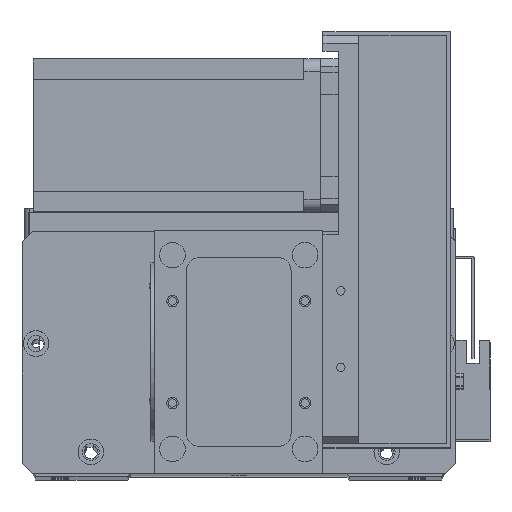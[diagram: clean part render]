
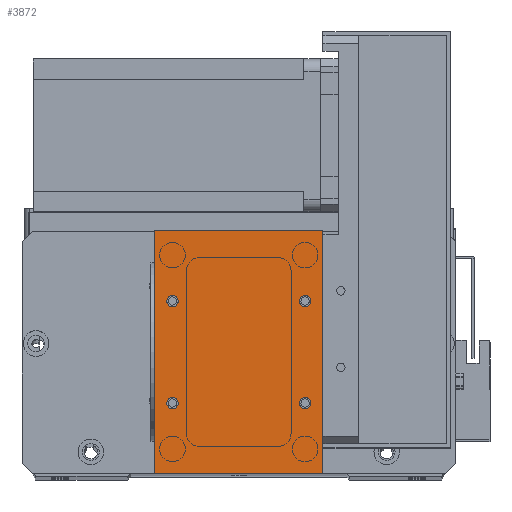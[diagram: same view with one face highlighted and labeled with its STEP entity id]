
A CAD part, top view. The second image highlights one B-rep face of the part: STEP entity #3872.
In plain terms, the highlighted planar face has unit normal (0, 0, 1).
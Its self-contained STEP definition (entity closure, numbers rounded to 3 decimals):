
#113 = CARTESIAN_POINT ( 'NONE',  ( 4.75, 67.5, 2. ) ) ;
#294 = CARTESIAN_POINT ( 'NONE',  ( 9.25, 67.5, 2. ) ) ;
#312 = EDGE_CURVE ( 'NONE', #14484, #25078, #27014, .T. ) ;
#472 = EDGE_CURVE ( 'NONE', #17588, #2634, #28917, .T. ) ;
#483 = EDGE_CURVE ( 'NONE', #26189, #18744, #16011, .T. ) ;
#1022 = DIRECTION ( 'NONE',  ( 0., 0., 1. ) ) ;
#1129 = CIRCLE ( 'NONE', #12644, 2.25 ) ;
#1170 = ORIENTED_EDGE ( 'NONE', *, *, #11652, .T. ) ;
#1181 = FACE_OUTER_BOUND ( 'NONE', #26929, .T. ) ;
#1208 = DIRECTION ( 'NONE',  ( 0., 0., 1. ) ) ;
#1800 = DIRECTION ( 'NONE',  ( -1., 0., 0. ) ) ;
#1855 = CIRCLE ( 'NONE', #6778, 2.25 ) ;
#2254 = AXIS2_PLACEMENT_3D ( 'NONE', #5949, #28805, #13592 ) ;
#2316 = DIRECTION ( 'NONE',  ( 0., 0., 1. ) ) ;
#2584 = VECTOR ( 'NONE', #24570, 1000. ) ;
#2634 = VERTEX_POINT ( 'NONE', #23014 ) ;
#2699 = FACE_BOUND ( 'NONE', #15374, .T. ) ;
#2701 = CIRCLE ( 'NONE', #9621, 2.25 ) ;
#2751 = AXIS2_PLACEMENT_3D ( 'NONE', #8598, #25582, #11049 ) ;
#2878 = CARTESIAN_POINT ( 'NONE',  ( 9.25, 27.5, 2. ) ) ;
#3298 = CARTESIAN_POINT ( 'NONE',  ( 0., 0., 2. ) ) ;
#3872 = ADVANCED_FACE ( 'NONE', ( #8436, #14182, #2699, #7684, #1181 ), #14476, .F. ) ;
#4422 = ORIENTED_EDGE ( 'NONE', *, *, #13826, .F. ) ;
#4651 = VECTOR ( 'NONE', #1800, 1000. ) ;
#5108 = AXIS2_PLACEMENT_3D ( 'NONE', #27941, #13426, #30377 ) ;
#5647 = DIRECTION ( 'NONE',  ( 0., 0., 1. ) ) ;
#5949 = CARTESIAN_POINT ( 'NONE',  ( 7., 67.5, 2. ) ) ;
#6778 = AXIS2_PLACEMENT_3D ( 'NONE', #20221, #5647, #22667 ) ;
#7684 = FACE_BOUND ( 'NONE', #22499, .T. ) ;
#8289 = CARTESIAN_POINT ( 'NONE',  ( 0., 95., 2. ) ) ;
#8422 = CARTESIAN_POINT ( 'NONE',  ( 59., 27.5, 2. ) ) ;
#8436 = FACE_BOUND ( 'NONE', #23894, .T. ) ;
#8598 = CARTESIAN_POINT ( 'NONE',  ( 7., 67.5, 2. ) ) ;
#8810 = AXIS2_PLACEMENT_3D ( 'NONE', #15635, #1022, #18066 ) ;
#9463 = CIRCLE ( 'NONE', #5108, 2.25 ) ;
#9482 = VERTEX_POINT ( 'NONE', #2878 ) ;
#9621 = AXIS2_PLACEMENT_3D ( 'NONE', #8422, #25418, #10889 ) ;
#10889 = DIRECTION ( 'NONE',  ( 1., 0., 0. ) ) ;
#11049 = DIRECTION ( 'NONE',  ( 1., 0., 0. ) ) ;
#11652 = EDGE_CURVE ( 'NONE', #15943, #14484, #15375, .T. ) ;
#11815 = DIRECTION ( 'NONE',  ( -1., 0., 0. ) ) ;
#12142 = DIRECTION ( 'NONE',  ( 0., 0., -1. ) ) ;
#12644 = AXIS2_PLACEMENT_3D ( 'NONE', #15830, #1208, #18248 ) ;
#13111 = VERTEX_POINT ( 'NONE', #15110 ) ;
#13310 = CARTESIAN_POINT ( 'NONE',  ( 0., 0., 2. ) ) ;
#13426 = DIRECTION ( 'NONE',  ( 0., 0., 1. ) ) ;
#13592 = DIRECTION ( 'NONE',  ( 1., 0., 0. ) ) ;
#13826 = EDGE_CURVE ( 'NONE', #29445, #15415, #1855, .T. ) ;
#13968 = CARTESIAN_POINT ( 'NONE',  ( 59., 67.5, 2. ) ) ;
#14010 = CARTESIAN_POINT ( 'NONE',  ( 56.75, 27.5, 2. ) ) ;
#14088 = CARTESIAN_POINT ( 'NONE',  ( 0., 95., 2. ) ) ;
#14182 = FACE_BOUND ( 'NONE', #24041, .T. ) ;
#14284 = EDGE_CURVE ( 'NONE', #25078, #13111, #21234, .T. ) ;
#14380 = VERTEX_POINT ( 'NONE', #27288 ) ;
#14420 = CIRCLE ( 'NONE', #8810, 2.25 ) ;
#14476 = PLANE ( 'NONE',  #21834 ) ;
#14484 = VERTEX_POINT ( 'NONE', #8289 ) ;
#14888 = ORIENTED_EDGE ( 'NONE', *, *, #18902, .F. ) ;
#15110 = CARTESIAN_POINT ( 'NONE',  ( 66., 0., 2. ) ) ;
#15374 = EDGE_LOOP ( 'NONE', ( #16013, #4422 ) ) ;
#15375 = LINE ( 'NONE', #14088, #4651 ) ;
#15415 = VERTEX_POINT ( 'NONE', #20677 ) ;
#15635 = CARTESIAN_POINT ( 'NONE',  ( 59., 67.5, 2. ) ) ;
#15690 = ORIENTED_EDGE ( 'NONE', *, *, #483, .F. ) ;
#15830 = CARTESIAN_POINT ( 'NONE',  ( 7., 27.5, 2. ) ) ;
#15943 = VERTEX_POINT ( 'NONE', #15999 ) ;
#15999 = CARTESIAN_POINT ( 'NONE',  ( 66., 95., 2. ) ) ;
#16011 = CIRCLE ( 'NONE', #2254, 2.25 ) ;
#16013 = ORIENTED_EDGE ( 'NONE', *, *, #24752, .F. ) ;
#16815 = DIRECTION ( 'NONE',  ( 1., 0., 0. ) ) ;
#17125 = EDGE_CURVE ( 'NONE', #14380, #9482, #1129, .T. ) ;
#17588 = VERTEX_POINT ( 'NONE', #17726 ) ;
#17726 = CARTESIAN_POINT ( 'NONE',  ( 61.25, 67.5, 2. ) ) ;
#18066 = DIRECTION ( 'NONE',  ( 1., 0., 0. ) ) ;
#18248 = DIRECTION ( 'NONE',  ( 1., 0., 0. ) ) ;
#18314 = EDGE_CURVE ( 'NONE', #9482, #14380, #9463, .T. ) ;
#18744 = VERTEX_POINT ( 'NONE', #294 ) ;
#18902 = EDGE_CURVE ( 'NONE', #2634, #17588, #14420, .T. ) ;
#20221 = CARTESIAN_POINT ( 'NONE',  ( 59., 27.5, 2. ) ) ;
#20677 = CARTESIAN_POINT ( 'NONE',  ( 61.25, 27.5, 2. ) ) ;
#20793 = ORIENTED_EDGE ( 'NONE', *, *, #23587, .F. ) ;
#21234 = LINE ( 'NONE', #29444, #2584 ) ;
#21481 = CARTESIAN_POINT ( 'NONE',  ( 66., 0., 2. ) ) ;
#21834 = AXIS2_PLACEMENT_3D ( 'NONE', #13310, #12142, #11815 ) ;
#22499 = EDGE_LOOP ( 'NONE', ( #29697, #27431 ) ) ;
#22667 = DIRECTION ( 'NONE',  ( 1., 0., 0. ) ) ;
#23014 = CARTESIAN_POINT ( 'NONE',  ( 56.75, 67.5, 2. ) ) ;
#23262 = VECTOR ( 'NONE', #23926, 1000. ) ;
#23392 = ORIENTED_EDGE ( 'NONE', *, *, #14284, .T. ) ;
#23587 = EDGE_CURVE ( 'NONE', #18744, #26189, #25237, .T. ) ;
#23637 = DIRECTION ( 'NONE',  ( 0., -1., 0. ) ) ;
#23894 = EDGE_LOOP ( 'NONE', ( #20793, #15690 ) ) ;
#23926 = DIRECTION ( 'NONE',  ( 0., 1., 0. ) ) ;
#24018 = LINE ( 'NONE', #21481, #23262 ) ;
#24041 = EDGE_LOOP ( 'NONE', ( #26490, #14888 ) ) ;
#24570 = DIRECTION ( 'NONE',  ( 1., 0., 0. ) ) ;
#24752 = EDGE_CURVE ( 'NONE', #15415, #29445, #2701, .T. ) ;
#24958 = EDGE_CURVE ( 'NONE', #13111, #15943, #24018, .T. ) ;
#25078 = VERTEX_POINT ( 'NONE', #29347 ) ;
#25237 = CIRCLE ( 'NONE', #2751, 2.25 ) ;
#25418 = DIRECTION ( 'NONE',  ( 0., 0., 1. ) ) ;
#25582 = DIRECTION ( 'NONE',  ( 0., 0., 1. ) ) ;
#25935 = ORIENTED_EDGE ( 'NONE', *, *, #312, .T. ) ;
#26189 = VERTEX_POINT ( 'NONE', #113 ) ;
#26263 = VECTOR ( 'NONE', #23637, 1000. ) ;
#26490 = ORIENTED_EDGE ( 'NONE', *, *, #472, .F. ) ;
#26929 = EDGE_LOOP ( 'NONE', ( #25935, #23392, #29345, #1170 ) ) ;
#27014 = LINE ( 'NONE', #3298, #26263 ) ;
#27288 = CARTESIAN_POINT ( 'NONE',  ( 4.75, 27.5, 2. ) ) ;
#27431 = ORIENTED_EDGE ( 'NONE', *, *, #17125, .F. ) ;
#27941 = CARTESIAN_POINT ( 'NONE',  ( 7., 27.5, 2. ) ) ;
#28805 = DIRECTION ( 'NONE',  ( 0., 0., 1. ) ) ;
#28917 = CIRCLE ( 'NONE', #28943, 2.25 ) ;
#28943 = AXIS2_PLACEMENT_3D ( 'NONE', #13968, #2316, #16815 ) ;
#29345 = ORIENTED_EDGE ( 'NONE', *, *, #24958, .T. ) ;
#29347 = CARTESIAN_POINT ( 'NONE',  ( 0., 0., 2. ) ) ;
#29444 = CARTESIAN_POINT ( 'NONE',  ( 0., 0., 2. ) ) ;
#29445 = VERTEX_POINT ( 'NONE', #14010 ) ;
#29697 = ORIENTED_EDGE ( 'NONE', *, *, #18314, .F. ) ;
#30377 = DIRECTION ( 'NONE',  ( 1., 0., 0. ) ) ;
